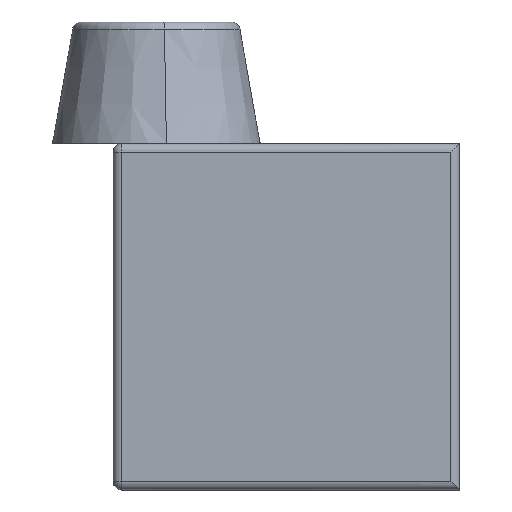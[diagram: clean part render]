
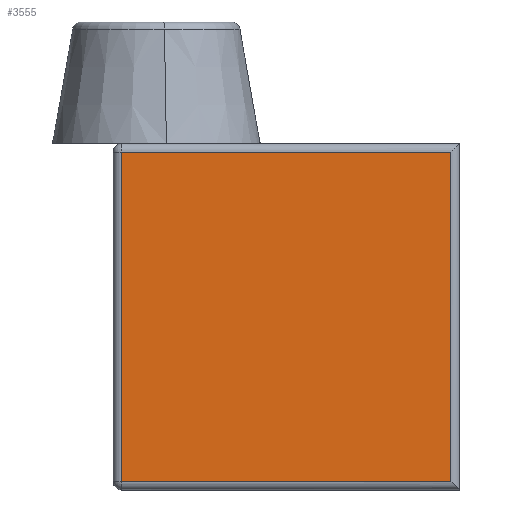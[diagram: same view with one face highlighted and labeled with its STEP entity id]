
A CAD part, left-side view. The second image highlights one B-rep face of the part: STEP entity #3555.
In plain terms, the highlighted planar face has unit normal (-1, 0, 0).
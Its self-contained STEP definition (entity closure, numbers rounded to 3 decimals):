
#333 = ORIENTED_EDGE ( 'NONE', *, *, #4078, .T. ) ;
#334 = CARTESIAN_POINT ( 'NONE',  ( 0., 0.5, 19.5 ) ) ;
#452 = VERTEX_POINT ( 'NONE', #334 ) ;
#465 = VECTOR ( 'NONE', #4952, 1000. ) ;
#852 = DIRECTION ( 'NONE',  ( 0., 1., 0. ) ) ;
#856 = DIRECTION ( 'NONE',  ( 0., -1., 0. ) ) ;
#1116 = CARTESIAN_POINT ( 'NONE',  ( 0., 19.5, 20. ) ) ;
#1422 = LINE ( 'NONE', #3016, #1811 ) ;
#1499 = CARTESIAN_POINT ( 'NONE',  ( 0., 0.5, 20. ) ) ;
#1678 = VECTOR ( 'NONE', #3131, 1000. ) ;
#1745 = DIRECTION ( 'NONE',  ( 1., 0., 0. ) ) ;
#1811 = VECTOR ( 'NONE', #852, 1000. ) ;
#1940 = CARTESIAN_POINT ( 'NONE',  ( 0., 19.5, 0.5 ) ) ;
#2161 = EDGE_CURVE ( 'NONE', #2920, #2706, #6581, .T. ) ;
#2283 = CARTESIAN_POINT ( 'NONE',  ( 0., 0., 20. ) ) ;
#2320 = ORIENTED_EDGE ( 'NONE', *, *, #4173, .T. ) ;
#2345 = FACE_OUTER_BOUND ( 'NONE', #3917, .T. ) ;
#2580 = CARTESIAN_POINT ( 'NONE',  ( 0., 0.5, 0.5 ) ) ;
#2609 = VECTOR ( 'NONE', #856, 1000. ) ;
#2706 = VERTEX_POINT ( 'NONE', #1940 ) ;
#2917 = EDGE_CURVE ( 'NONE', #2706, #4715, #3558, .T. ) ;
#2920 = VERTEX_POINT ( 'NONE', #4026 ) ;
#3016 = CARTESIAN_POINT ( 'NONE',  ( 0., 0., 19.5 ) ) ;
#3131 = DIRECTION ( 'NONE',  ( 0., 0., 1. ) ) ;
#3537 = ORIENTED_EDGE ( 'NONE', *, *, #2161, .T. ) ;
#3555 = ADVANCED_FACE ( 'NONE', ( #2345 ), #5574, .F. ) ;
#3558 = LINE ( 'NONE', #4100, #2609 ) ;
#3917 = EDGE_LOOP ( 'NONE', ( #2320, #333, #3537, #5600 ) ) ;
#3953 = DIRECTION ( 'NONE',  ( 0., 0., -1. ) ) ;
#4026 = CARTESIAN_POINT ( 'NONE',  ( 0., 19.5, 19.5 ) ) ;
#4078 = EDGE_CURVE ( 'NONE', #452, #2920, #1422, .T. ) ;
#4100 = CARTESIAN_POINT ( 'NONE',  ( 0., 0., 0.5 ) ) ;
#4173 = EDGE_CURVE ( 'NONE', #4715, #452, #5067, .T. ) ;
#4648 = AXIS2_PLACEMENT_3D ( 'NONE', #2283, #1745, #3953 ) ;
#4715 = VERTEX_POINT ( 'NONE', #2580 ) ;
#4952 = DIRECTION ( 'NONE',  ( 0., 0., -1. ) ) ;
#5067 = LINE ( 'NONE', #1499, #1678 ) ;
#5574 = PLANE ( 'NONE',  #4648 ) ;
#5600 = ORIENTED_EDGE ( 'NONE', *, *, #2917, .T. ) ;
#6581 = LINE ( 'NONE', #1116, #465 ) ;
